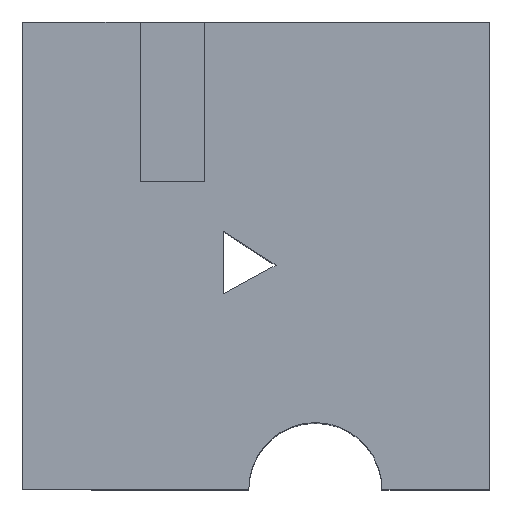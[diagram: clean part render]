
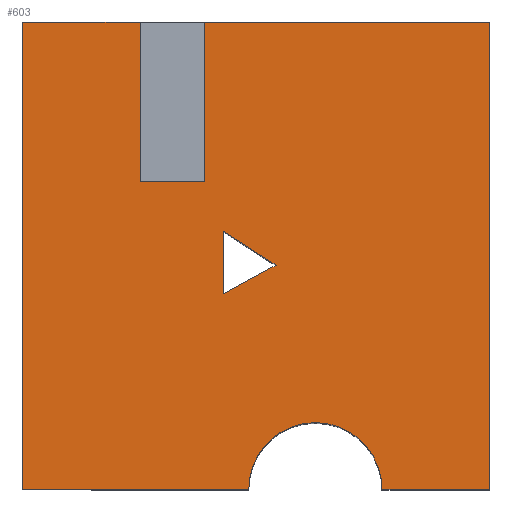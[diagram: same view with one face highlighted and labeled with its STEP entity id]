
A CAD part, top view. The second image highlights one B-rep face of the part: STEP entity #603.
In plain terms, the highlighted planar face has unit normal (0, 0, 1).
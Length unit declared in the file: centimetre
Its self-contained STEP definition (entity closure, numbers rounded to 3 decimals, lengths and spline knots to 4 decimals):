
#17 = EDGE_CURVE ( 'NONE', #663, #323, #43, .T. ) ;
#22 = VECTOR ( 'NONE', #181, 100. ) ;
#28 = PLANE ( 'NONE',  #400 ) ;
#42 = VECTOR ( 'NONE', #163, 100. ) ;
#43 = LINE ( 'NONE', #389, #42 ) ;
#46 = CARTESIAN_POINT ( 'NONE',  ( 0., 1000., 1000. ) ) ;
#53 = ORIENTED_EDGE ( 'NONE', *, *, #373, .T. ) ;
#60 = EDGE_CURVE ( 'NONE', #197, #667, #395, .T. ) ;
#67 = EDGE_CURVE ( 'NONE', #376, #197, #212, .T. ) ;
#70 = ORIENTED_EDGE ( 'NONE', *, *, #132, .T. ) ;
#87 = VERTEX_POINT ( 'NONE', #434 ) ;
#105 = DIRECTION ( 'NONE',  ( 0., 1., 0. ) ) ;
#115 = DIRECTION ( 'NONE',  ( 1., 0., 0. ) ) ;
#124 = LINE ( 'NONE', #521, #149 ) ;
#131 = VERTEX_POINT ( 'NONE', #162 ) ;
#132 = EDGE_CURVE ( 'NONE', #177, #484, #313, .T. ) ;
#147 = ORIENTED_EDGE ( 'NONE', *, *, #165, .F. ) ;
#149 = VECTOR ( 'NONE', #458, 100. ) ;
#156 = VECTOR ( 'NONE', #688, 100. ) ;
#162 = CARTESIAN_POINT ( 'NONE',  ( 0., 0., 1000. ) ) ;
#163 = DIRECTION ( 'NONE',  ( -0.84, 0.542, 0. ) ) ;
#164 = CARTESIAN_POINT ( 'NONE',  ( 252.243, 659.43, 1000. ) ) ;
#165 = EDGE_CURVE ( 'NONE', #338, #667, #660, .T. ) ;
#175 = DIRECTION ( 'NONE',  ( 0.879, 0.478, 0. ) ) ;
#177 = VERTEX_POINT ( 'NONE', #550 ) ;
#181 = DIRECTION ( 'NONE',  ( 1., 0., 0. ) ) ;
#197 = VERTEX_POINT ( 'NONE', #216 ) ;
#202 = DIRECTION ( 'NONE',  ( 1., 0., 0. ) ) ;
#212 = LINE ( 'NONE', #614, #380 ) ;
#214 = CARTESIAN_POINT ( 'NONE',  ( 627.0351, 0., 1000. ) ) ;
#216 = CARTESIAN_POINT ( 'NONE',  ( 1000., 1000., 1000. ) ) ;
#228 = LINE ( 'NONE', #295, #725 ) ;
#230 = LINE ( 'NONE', #619, #490 ) ;
#246 = LINE ( 'NONE', #308, #22 ) ;
#247 = ORIENTED_EDGE ( 'NONE', *, *, #390, .F. ) ;
#259 = EDGE_LOOP ( 'NONE', ( #374, #534, #247 ) ) ;
#281 = VERTEX_POINT ( 'NONE', #516 ) ;
#282 = LINE ( 'NONE', #164, #156 ) ;
#288 = VECTOR ( 'NONE', #175, 100. ) ;
#292 = CARTESIAN_POINT ( 'NONE',  ( 542.8891, 479.5779, 1000. ) ) ;
#295 = CARTESIAN_POINT ( 'NONE',  ( 252.243, 659.43, 1000. ) ) ;
#301 = EDGE_CURVE ( 'NONE', #87, #281, #282, .T. ) ;
#308 = CARTESIAN_POINT ( 'NONE',  ( 0., 0., 1000. ) ) ;
#311 = EDGE_CURVE ( 'NONE', #366, #663, #558, .T. ) ;
#313 = CIRCLE ( 'NONE', #543, 142.5746 ) ;
#323 = VERTEX_POINT ( 'NONE', #745 ) ;
#327 = EDGE_LOOP ( 'NONE', ( #631, #53, #705, #644, #70, #355, #575, #447, #147, #451 ) ) ;
#331 = CARTESIAN_POINT ( 'NONE',  ( 389.8538, 659.43, 1000. ) ) ;
#332 = DIRECTION ( 'NONE',  ( -1., 0., 0. ) ) ;
#338 = VERTEX_POINT ( 'NONE', #737 ) ;
#339 = DIRECTION ( 'NONE',  ( 0., -1., 0. ) ) ;
#355 = ORIENTED_EDGE ( 'NONE', *, *, #697, .T. ) ;
#366 = VERTEX_POINT ( 'NONE', #680 ) ;
#373 = EDGE_CURVE ( 'NONE', #281, #579, #571, .T. ) ;
#374 = ORIENTED_EDGE ( 'NONE', *, *, #17, .F. ) ;
#376 = VERTEX_POINT ( 'NONE', #505 ) ;
#380 = VECTOR ( 'NONE', #105, 100. ) ;
#381 = DIRECTION ( 'NONE',  ( 0., 0., 1. ) ) ;
#384 = EDGE_CURVE ( 'NONE', #579, #131, #230, .T. ) ;
#389 = CARTESIAN_POINT ( 'NONE',  ( 542.8891, 479.5779, 1000. ) ) ;
#390 = EDGE_CURVE ( 'NONE', #323, #366, #452, .T. ) ;
#392 = CARTESIAN_POINT ( 'NONE',  ( 0., 1000., 1000. ) ) ;
#395 = LINE ( 'NONE', #392, #415 ) ;
#398 = DIRECTION ( 'NONE',  ( 0., -1., 0. ) ) ;
#400 = AXIS2_PLACEMENT_3D ( 'NONE', #430, #381, #202 ) ;
#401 = CARTESIAN_POINT ( 'NONE',  ( 389.8538, 1000., 1000. ) ) ;
#405 = CARTESIAN_POINT ( 'NONE',  ( 430.1625, 418.292, 1000. ) ) ;
#415 = VECTOR ( 'NONE', #332, 100. ) ;
#427 = FACE_OUTER_BOUND ( 'NONE', #327, .T. ) ;
#430 = CARTESIAN_POINT ( 'NONE',  ( 0., 0., 1000. ) ) ;
#434 = CARTESIAN_POINT ( 'NONE',  ( 252.243, 659.43, 1000. ) ) ;
#441 = EDGE_CURVE ( 'NONE', #131, #177, #246, .T. ) ;
#447 = ORIENTED_EDGE ( 'NONE', *, *, #60, .T. ) ;
#450 = VECTOR ( 'NONE', #398, 100. ) ;
#451 = ORIENTED_EDGE ( 'NONE', *, *, #674, .F. ) ;
#452 = LINE ( 'NONE', #563, #450 ) ;
#458 = DIRECTION ( 'NONE',  ( 1., 0., 0. ) ) ;
#484 = VERTEX_POINT ( 'NONE', #587 ) ;
#490 = VECTOR ( 'NONE', #339, 100. ) ;
#496 = DIRECTION ( 'NONE',  ( -1., 0., 0. ) ) ;
#505 = CARTESIAN_POINT ( 'NONE',  ( 1000., 0., 1000. ) ) ;
#508 = VECTOR ( 'NONE', #668, 100. ) ;
#516 = CARTESIAN_POINT ( 'NONE',  ( 252.243, 1000., 1000. ) ) ;
#521 = CARTESIAN_POINT ( 'NONE',  ( 0., 0., 1000. ) ) ;
#524 = VECTOR ( 'NONE', #677, 100. ) ;
#534 = ORIENTED_EDGE ( 'NONE', *, *, #311, .F. ) ;
#543 = AXIS2_PLACEMENT_3D ( 'NONE', #214, #664, #496 ) ;
#550 = CARTESIAN_POINT ( 'NONE',  ( 484.4604, 0., 1000. ) ) ;
#558 = LINE ( 'NONE', #405, #288 ) ;
#563 = CARTESIAN_POINT ( 'NONE',  ( 430.1625, 552.2545, 1000. ) ) ;
#571 = LINE ( 'NONE', #46, #524 ) ;
#574 = CARTESIAN_POINT ( 'NONE',  ( 0., 1000., 1000. ) ) ;
#575 = ORIENTED_EDGE ( 'NONE', *, *, #67, .T. ) ;
#579 = VERTEX_POINT ( 'NONE', #574 ) ;
#587 = CARTESIAN_POINT ( 'NONE',  ( 769.6097, 0., 1000. ) ) ;
#594 = FACE_BOUND ( 'NONE', #259, .T. ) ;
#603 = ADVANCED_FACE ( 'NONE', ( #594, #427 ), #28, .T. ) ;
#614 = CARTESIAN_POINT ( 'NONE',  ( 1000., 1000., 1000. ) ) ;
#619 = CARTESIAN_POINT ( 'NONE',  ( 0., 1000., 1000. ) ) ;
#631 = ORIENTED_EDGE ( 'NONE', *, *, #301, .T. ) ;
#644 = ORIENTED_EDGE ( 'NONE', *, *, #441, .T. ) ;
#660 = LINE ( 'NONE', #331, #508 ) ;
#663 = VERTEX_POINT ( 'NONE', #292 ) ;
#664 = DIRECTION ( 'NONE',  ( 0., 0., -1. ) ) ;
#667 = VERTEX_POINT ( 'NONE', #401 ) ;
#668 = DIRECTION ( 'NONE',  ( 0., 1., 0. ) ) ;
#674 = EDGE_CURVE ( 'NONE', #87, #338, #228, .T. ) ;
#677 = DIRECTION ( 'NONE',  ( -1., 0., 0. ) ) ;
#680 = CARTESIAN_POINT ( 'NONE',  ( 430.1625, 418.292, 1000. ) ) ;
#688 = DIRECTION ( 'NONE',  ( 0., 1., 0. ) ) ;
#697 = EDGE_CURVE ( 'NONE', #484, #376, #124, .T. ) ;
#705 = ORIENTED_EDGE ( 'NONE', *, *, #384, .T. ) ;
#725 = VECTOR ( 'NONE', #115, 100. ) ;
#737 = CARTESIAN_POINT ( 'NONE',  ( 389.8538, 659.43, 1000. ) ) ;
#745 = CARTESIAN_POINT ( 'NONE',  ( 430.1625, 552.2545, 1000. ) ) ;
